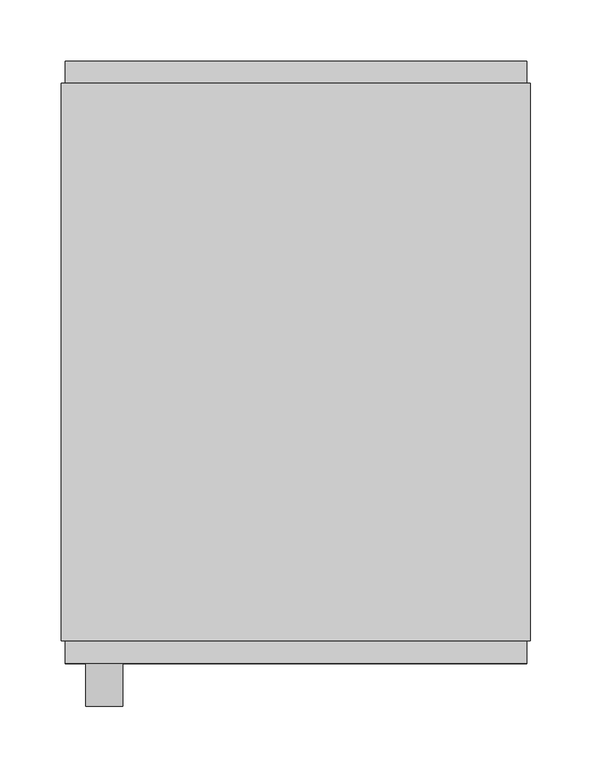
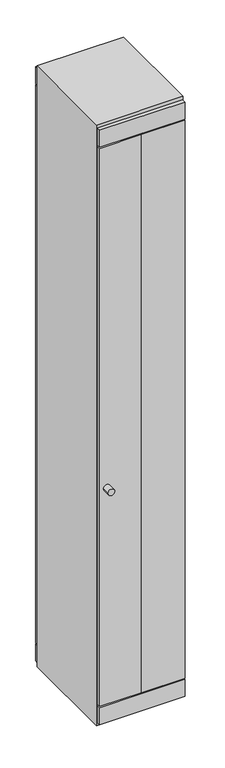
"""IFC4 building model written with IfcOpenShell, lengths in millimetres: furniture geometry, Apex - 1 DOOR - FC OR CAPPED : 1 DOOR - F/C OR CAPPED 400mm(w) x 490mm(d)."""

from ifc_helpers import new_model, si_unit, point, frame, frame_2d, origin, place, context, project, spatial, polyline, circle_curve, trimmed, segment, composite_curve, outline, extrude, source, transform, mapped, element, save


def furniture_47b076d5(model_context):
    return source(origin(), model_context, "Body", "SweptSolid", [
        extrude(outline(composite_curve([segment(trimmed(circle_curve(frame_2d((1108.0, 35.0)), 15.0), [point((1108.0, 20.0))], [point((1108.0, 50.0))], False, "CARTESIAN"), True, "CONTINUOUS"), segment(trimmed(circle_curve(frame_2d((1108.0, 35.0)), 15.0), [point((1108.0, 50.0))], [point((1108.0, 20.0))], False, "CARTESIAN"), True, "CONTINUOUS")], self_intersect=False)), frame((0.0, -525.0, 0.0), z_axis=(0.0, 1.0, 0.0), x_axis=(0.0, 0.0, 1.0)), (0.0, 0.0, 1.0), 35.0),
        extrude(outline(polyline([(2800.0, 382.0), (2800.0, 0.0), (0.0, 0.0), (0.0, 382.0), (2800.0, 382.0)]), holes=[polyline([(115.0, 373.0), (115.0, 9.0), (2685.2991236, 9.0), (2685.2991236, 373.0), (115.0, 373.0)])]), frame((0.0, -472.0, 0.0), z_axis=(0.0, 1.0, 0.0), x_axis=(0.0, 0.0, 1.0)), (0.0, 0.0, 1.0), 454.0),
        extrude(outline(polyline([(186.0, -472.0), (379.0, -472.0), (379.0, -490.0), (186.0, -490.0), (3.0, -490.0), (3.0, -472.0), (186.0, -472.0)])), frame((0.0, 0.0, 100.0), z_axis=(0.0, 0.0, 1.0), x_axis=(1.0, 0.0, 0.0)), (0.0, 0.0, 1.0), 2600.0),
        extrude(outline(polyline([(379.0, 0.0), (379.0, -18.0), (3.0, -18.0), (3.0, 0.0), (379.0, 0.0)])), frame((0.0, 0.0, 100.0), z_axis=(0.0, 0.0, 1.0), x_axis=(1.0, 0.0, 0.0)), (0.0, 0.0, 1.0), 2600.0),
        extrude(outline(polyline([(379.0, -18.0), (3.0, -18.0), (3.0, 0.0), (379.0, 0.0), (379.0, -18.0)])), frame((0.0, 0.0, 2706.0), z_axis=(0.0, 0.0, 1.0), x_axis=(1.0, 0.0, 0.0)), (0.0, 0.0, 1.0), 79.0),
        extrude(outline(polyline([(379.0, -18.0), (3.0, -18.0), (3.0, 0.0), (379.0, 0.0), (379.0, -18.0)])), frame((0.0, 0.0, 15.0), z_axis=(0.0, 0.0, 1.0), x_axis=(1.0, 0.0, 0.0)), (0.0, 0.0, 1.0), 79.0),
        extrude(outline(polyline([(379.0, -490.0), (3.0, -490.0), (3.0, -472.0), (379.0, -472.0), (379.0, -490.0)])), frame((0.0, 0.0, 2706.0), z_axis=(0.0, 0.0, 1.0), x_axis=(1.0, 0.0, 0.0)), (0.0, 0.0, 1.0), 79.0),
        extrude(outline(polyline([(379.0, -490.0), (3.0, -490.0), (3.0, -472.0), (379.0, -472.0), (379.0, -490.0)])), frame((0.0, 0.0, 15.0), z_axis=(0.0, 0.0, 1.0), x_axis=(1.0, 0.0, 0.0)), (0.0, 0.0, 1.0), 79.0),
    ])


if __name__ == "__main__":
    model = new_model("IFC4")
    model_context = context("Model", 3, world=origin())
    ifc_project = project(units=[si_unit("LENGTHUNIT", "METRE", prefix="MILLI")], contexts=[model_context])
    site = spatial("IfcSite", under=ifc_project)
    building = spatial("IfcBuilding", under=site)
    placement = place(None, origin())
    furniture_shape = furniture_47b076d5(model_context)
    element("IfcFurniture", 1, ObjectType="Apex - 1 DOOR - FC OR CAPPED : 1 DOOR - F/C OR CAPPED 400mm(w) x 490mm(d)", at=placement, inside=building, context=model_context, shape_type="MappedRepresentation", body=[
        mapped(furniture_shape, transform((0.0, 0.0, 0.0), x_axis=(1.0, 0.0, 0.0), y_axis=(0.0, 1.0, 0.0), z_axis=(0.0, 0.0, 1.0))),
    ])
    save(model, "model.ifc")
